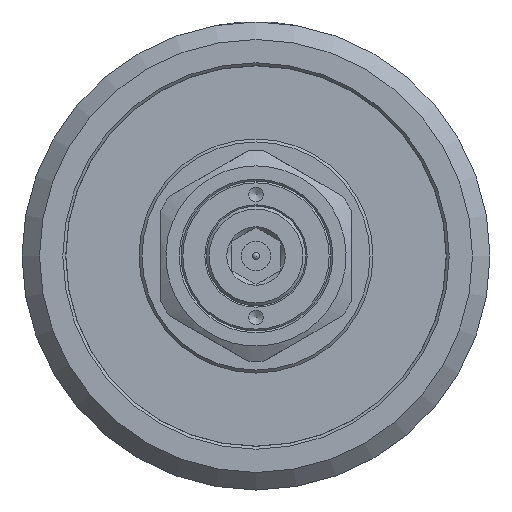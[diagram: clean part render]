
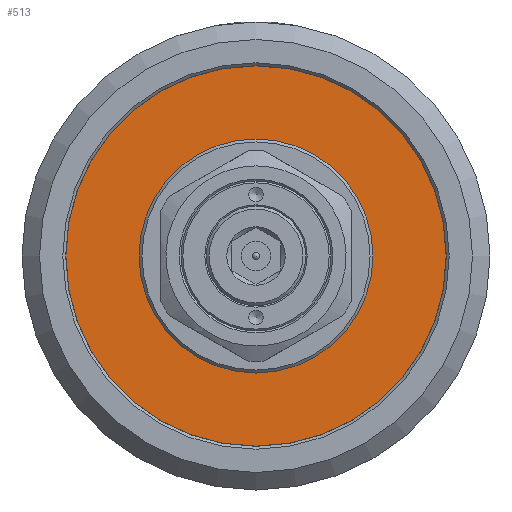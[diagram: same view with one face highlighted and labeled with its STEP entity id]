
A CAD part, left-side view. The second image highlights one B-rep face of the part: STEP entity #513.
In plain terms, the highlighted planar face has unit normal (-1, 0, 0).
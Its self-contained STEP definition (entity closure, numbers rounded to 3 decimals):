
#513 = ADVANCED_FACE( '', ( #1187, #1188 ), #1189, .F. );
#1187 = FACE_OUTER_BOUND( '', #1970, .T. );
#1188 = FACE_BOUND( '', #1971, .T. );
#1189 = PLANE( '', #1972 );
#1970 = EDGE_LOOP( '', ( #3190 ) );
#1971 = EDGE_LOOP( '', ( #3191 ) );
#1972 = AXIS2_PLACEMENT_3D( '', #3192, #3193, #3194 );
#3190 = ORIENTED_EDGE( '', *, *, #3916, .T. );
#3191 = ORIENTED_EDGE( '', *, *, #3936, .F. );
#3192 = CARTESIAN_POINT( '', ( 100., 0., 65. ) );
#3193 = DIRECTION( '', ( 1., 0., 0. ) );
#3194 = DIRECTION( '', ( 0., 1., 0. ) );
#3916 = EDGE_CURVE( '', #4582, #4582, #4583, .T. );
#3936 = EDGE_CURVE( '', #4612, #4612, #4613, .T. );
#4582 = VERTEX_POINT( '', #5716 );
#4583 = CIRCLE( '', #5717, 65. );
#4612 = VERTEX_POINT( '', #5751 );
#4613 = CIRCLE( '', #5752, 40. );
#5716 = CARTESIAN_POINT( '', ( 100., 0., 65. ) );
#5717 = AXIS2_PLACEMENT_3D( '', #7004, #7005, #7006 );
#5751 = CARTESIAN_POINT( '', ( 100., 0., 40. ) );
#5752 = AXIS2_PLACEMENT_3D( '', #7036, #7037, #7038 );
#7004 = CARTESIAN_POINT( '', ( 100., 0., 0. ) );
#7005 = DIRECTION( '', ( -1., 0., 0. ) );
#7006 = DIRECTION( '', ( 0., 0., 1. ) );
#7036 = CARTESIAN_POINT( '', ( 100., 0., 0. ) );
#7037 = DIRECTION( '', ( -1., 0., 0. ) );
#7038 = DIRECTION( '', ( 0., 0., 1. ) );
